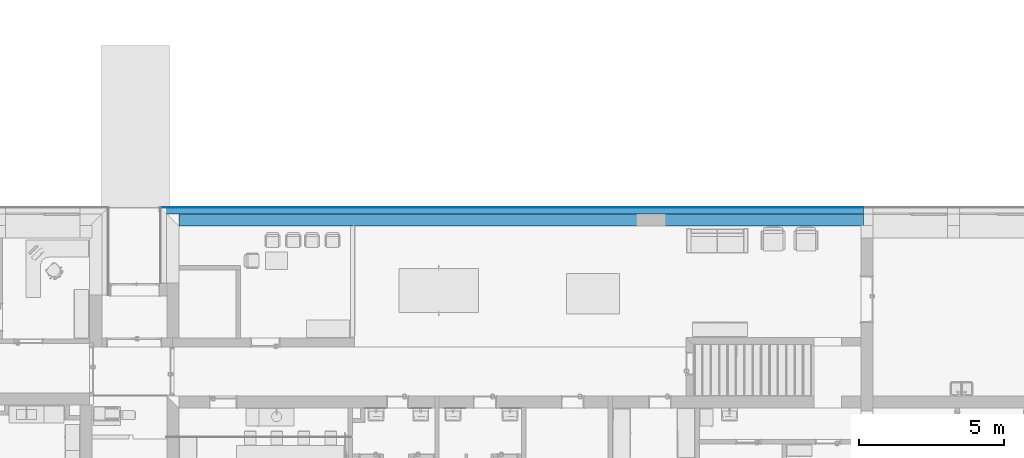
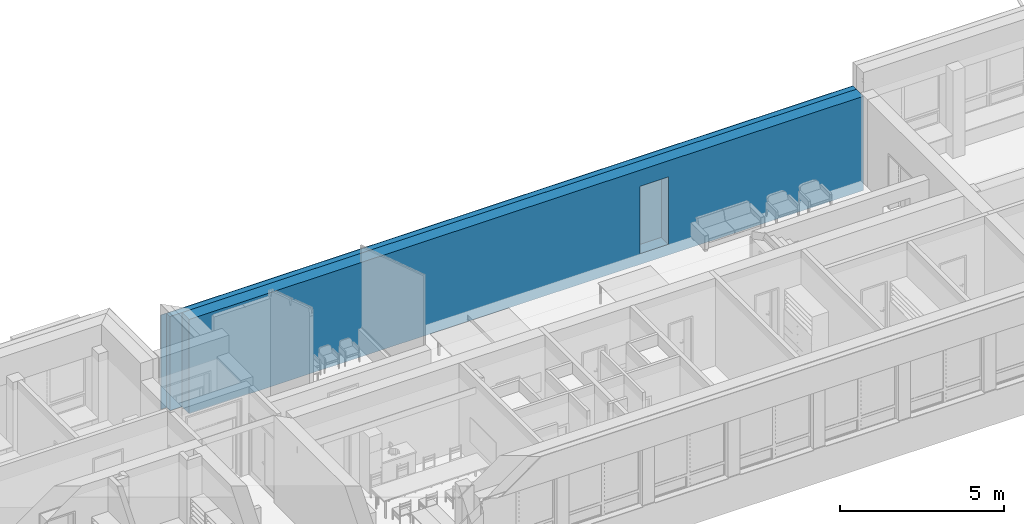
# One storey, part 97 of 194: 3 building element parts, 1 element without a shape of its own.
"""IFC2X3 building model written with IfcOpenShell, lengths in millimetres."""

import ifcopenshell
import ifcopenshell.guid

model = None  # the IFC model being written
_history = None  # IfcOwnerHistory: only IFC2X3 demands one
_inside = {}  # id of a spatial element -> (the spatial element, [elements in it])
_under = {}  # id of a project, library or spatial element -> (it, [spatial elements below it])
_declared = {}  # id of a project -> (the project, [libraries it declares])
_typed = {}  # id of a type object -> (the type object, [elements of that type])
_made_of = {}  # id of a material, layer set ... -> (it, [elements and type objects made of it])


def new_model(schema):
    """Start an empty IFC model of exactly this schema.

    Asked for "IFC4X3", IfcOpenShell would pick the latest addendum, in which some entities
    have other attributes; the version numbers below select the first issue.
    IFC2X3 requires an IfcOwnerHistory on every rooted entity: one is made here for all.
    """
    global model, _history
    if schema == "IFC4X3":
        model = ifcopenshell.file(schema_version=(4, 3, 0, 0))
    else:
        model = ifcopenshell.file(schema=schema)
    _inside.clear()
    _under.clear()
    _declared.clear()
    _typed.clear()
    _made_of.clear()
    _history = None
    if model.schema == "IFC2X3":
        org = make("IfcOrganization", Name="unknown")
        user = make(
            "IfcPersonAndOrganization",
            ThePerson=make("IfcPerson", FamilyName="unknown"),
            TheOrganization=org,
        )
        app = make(
            "IfcApplication",
            ApplicationDeveloper=org,
            Version="unknown",
            ApplicationFullName="unknown",
            ApplicationIdentifier="unknown",
        )
        _history = make(
            "IfcOwnerHistory",
            OwningUser=user,
            OwningApplication=app,
            ChangeAction="ADDED",
            CreationDate=0,
        )
    return model


def make(cls, **values):
    """One entity of the class cls with the attributes given. An attribute that is None is left unset."""
    return model.create_entity(
        cls, **{name: value for name, value in values.items() if value is not None}
    )


def entity(cls, *values):
    """Any entity or typed value of the class cls, its attributes in the order of the schema. None: left unset."""
    e = model.create_entity(cls)
    for i, value in enumerate(values):
        if value is not None:
            e[i] = value
    return e


def rooted(cls, **values):
    """An entity with a GlobalId (a new one), such as an element, a storey or a relation."""
    return make(cls, GlobalId=ifcopenshell.guid.new(), OwnerHistory=_history, **values)


def si_unit(unit_type, name, prefix=None):
    """IfcSIUnit, for example si_unit("LENGTHUNIT", "METRE", prefix="MILLI")."""
    return make("IfcSIUnit", UnitType=unit_type, Prefix=prefix, Name=name)


def converted_unit(unit_type, name, factor, base, dimensions=None, offset=None):
    """IfcConversionBasedUnit, such as the inch: factor (a typed value) times the base unit."""
    return make(
        "IfcConversionBasedUnit"
        if offset is None
        else "IfcConversionBasedUnitWithOffset",
        ConversionOffset=offset,
        Dimensions=None
        if dimensions is None
        else entity("IfcDimensionalExponents", *dimensions),
        UnitType=unit_type,
        Name=name,
        ConversionFactor=make(
            "IfcMeasureWithUnit", ValueComponent=factor, UnitComponent=base
        ),
    )


def derived_unit(unit_type, elements):
    """IfcDerivedUnit: a product of units, each with its exponent."""
    return make(
        "IfcDerivedUnit",
        Elements=[
            make("IfcDerivedUnitElement", Unit=unit, Exponent=power)
            for unit, power in elements
        ],
        UnitType=unit_type,
    )


def money_unit(currency):
    """IfcMonetaryUnit."""
    return make("IfcMonetaryUnit", Currency=currency)


def assignment(units):
    """IfcUnitAssignment: the units of a project."""
    return None if units is None else make("IfcUnitAssignment", Units=units)


def point(xyz):
    """IfcCartesianPoint."""
    return None if xyz is None else make("IfcCartesianPoint", Coordinates=xyz)


def direction(xyz):
    """IfcDirection."""
    return None if xyz is None else make("IfcDirection", DirectionRatios=xyz)


def frame(location, z_axis=None, x_axis=None):
    """IfcAxis2Placement3D, a coordinate frame: its origin and axes. An axis left out is left unset."""
    return make(
        "IfcAxis2Placement3D",
        Location=point(location),
        Axis=direction(z_axis),
        RefDirection=direction(x_axis),
    )


def origin_with_axes():
    """The frame at (0, 0, 0) with the z axis (0, 0, 1) and the x axis (1, 0, 0) written out."""
    return frame((0.0, 0.0, 0.0), z_axis=(0.0, 0.0, 1.0), x_axis=(1.0, 0.0, 0.0))


def place(relative_to, where):
    """IfcLocalPlacement: puts the frame where relative to a parent placement (None: the world)."""
    return make(
        "IfcLocalPlacement", PlacementRelTo=relative_to, RelativePlacement=where
    )


def context(
    kind, dimensions, precision=None, world=None, true_north=None, identifier=None
):
    """IfcGeometricRepresentationContext, for example the 3D "Model" context."""
    return make(
        "IfcGeometricRepresentationContext",
        ContextIdentifier=identifier,
        ContextType=kind,
        CoordinateSpaceDimension=dimensions,
        Precision=precision,
        WorldCoordinateSystem=world,
        TrueNorth=true_north,
    )


def subcontext(parent, identifier, kind, view, scale=None):
    """IfcGeometricRepresentationSubContext, for example "Body" below "Model"."""
    return make(
        "IfcGeometricRepresentationSubContext",
        ContextIdentifier=identifier,
        ContextType=kind,
        ParentContext=parent,
        TargetScale=scale,
        TargetView=view,
    )


def project(units=None, contexts=None):
    """IfcProject with its units and contexts."""
    return rooted(
        "IfcProject",
        Name="project",
        RepresentationContexts=contexts,
        UnitsInContext=assignment(units),
    )


def spatial(cls, under=None, at=None, **own):
    """A site, building, storey or space (cls), placed at a placement, below another one or the project."""
    s = rooted(cls, ObjectPlacement=at, **own)
    if under is not None:
        _under.setdefault(under.id(), (under, []))[1].append(s)
    return s


def polyline(points):
    """IfcPolyline through the points."""
    return make("IfcPolyline", Points=[point(p) for p in points])


def outline(outer, holes=None, kind="AREA"):
    """IfcArbitraryClosedProfileDef: a profile drawn as a closed curve; with holes, ...WithVoids."""
    if holes is None:
        return make("IfcArbitraryClosedProfileDef", ProfileType=kind, OuterCurve=outer)
    return make(
        "IfcArbitraryProfileDefWithVoids",
        ProfileType=kind,
        OuterCurve=outer,
        InnerCurves=holes,
    )


def extrude(swept, where, along, depth):
    """IfcExtrudedAreaSolid: the profile swept, set in the frame where, extruded along a direction by depth."""
    return make(
        "IfcExtrudedAreaSolid",
        SweptArea=swept,
        Position=where,
        ExtrudedDirection=direction(along),
        Depth=depth,
    )


def boolean(op, a, b):
    """IfcBooleanResult of two solids."""
    return make("IfcBooleanResult", Operator=op, FirstOperand=a, SecondOperand=b)


def faces_of(points, faces, orient=None, outer=None):
    """IfcFace entities. A face is a list of loops; a loop is a list of indices into points, from 0.

    orient and outer hold one flag for each loop. By default every Orientation is true, the
    first loop of a face is its IfcFaceOuterBound and the others are IfcFaceBound.
    """
    made = []
    for i, loops in enumerate(faces):
        bounds = []
        for j, loop in enumerate(loops):
            is_outer = j == 0 if outer is None else outer[i][j]
            bounds.append(
                make(
                    "IfcFaceOuterBound" if is_outer else "IfcFaceBound",
                    Bound=make("IfcPolyLoop", Polygon=[points[k] for k in loop]),
                    Orientation=True if orient is None else orient[i][j],
                )
            )
        made.append(make("IfcFace", Bounds=bounds))
    return made


def faceted_brep(points, faces, orient=None, outer=None, voids=None):
    """IfcFacetedBrep: a solid bounded by flat faces; with voids (closed shells), ...WithVoids."""
    shared = [point(p) for p in points]
    hull = make("IfcClosedShell", CfsFaces=faces_of(shared, faces, orient, outer))
    if voids is None:
        return make("IfcFacetedBrep", Outer=hull)
    return make(
        "IfcFacetedBrepWithVoids",
        Outer=hull,
        Voids=[
            make(cls, CfsFaces=faces_of(shared, fs, o, b)) for cls, fs, o, b in voids
        ],
    )


def shape(context_of_items, identifier, shape_type, items):
    """IfcShapeRepresentation: the items that make up one representation, for example the "Body"."""
    return make(
        "IfcShapeRepresentation",
        ContextOfItems=context_of_items,
        RepresentationIdentifier=identifier,
        RepresentationType=shape_type,
        Items=items,
    )


def material(Name=None, Category=None):
    """IfcMaterial."""
    return make("IfcMaterial", Name=Name, Category=Category)


def made_of(thing, what):
    """Note that an element or type object is made of a material, layer set ...; save() writes the relation."""
    if what is not None:
        _made_of.setdefault(what.id(), (what, []))[1].append(thing)
    return thing


def type_object(cls, material=None, **own):
    """A type object (cls), such as IfcWallType, which elements share."""
    return made_of(rooted(cls, **own), material)


def element(
    cls,
    number,
    at=None,
    inside=None,
    cuts=None,
    type_object=None,
    material=None,
    context=None,
    identifier="Body",
    shape_type=None,
    held_by="IfcProductDefinitionShape",
    body=None,
    shapes=None,
    **own,
):
    """One element of the class cls, such as IfcWall. Its Tag is "e" and its number.

    at: its placement. inside: the storey or other place that contains it. cuts: it is an
    opening in that element (IfcRelVoidsElement). A single representation is given by context,
    identifier, shape_type and body (its items); several are given by shapes. held_by: the class
    of the entity that holds the representations. save() writes the other relations.
    """
    e = rooted(cls, Tag="e%d" % number, ObjectPlacement=at, **own)
    if body is not None:
        shapes = [shape(context, identifier, shape_type, body)]
    if shapes is not None:
        e.Representation = make(held_by, Representations=shapes)
    if inside is not None:
        _inside.setdefault(inside.id(), (inside, []))[1].append(e)
    if cuts is not None:
        rooted(
            "IfcRelVoidsElement", RelatingBuildingElement=cuts, RelatedOpeningElement=e
        )
    if type_object is not None:
        _typed.setdefault(type_object.id(), (type_object, []))[1].append(e)
    return made_of(e, material)


def aggregate(whole, parts):
    """IfcRelAggregates: a whole, such as a stair, and the parts it consists of."""
    return rooted("IfcRelAggregates", RelatingObject=whole, RelatedObjects=parts)


def save(model, path):
    """Write the relations noted so far, then the file.

    IfcRelAggregates (storeys below a building ...), IfcRelContainedInSpatialStructure (elements
    in a storey), IfcRelDefinesByType, IfcRelAssociatesMaterial and IfcRelDeclares: one each for
    every whole, place, type object, material and project.
    """
    for whole, parts in _under.values():
        aggregate(whole, parts)
    for where, things in _inside.values():
        rooted(
            "IfcRelContainedInSpatialStructure",
            RelatedElements=things,
            RelatingStructure=where,
        )
    for kind, things in _typed.values():
        rooted("IfcRelDefinesByType", RelatedObjects=things, RelatingType=kind)
    for what, things in _made_of.values():
        rooted("IfcRelAssociatesMaterial", RelatedObjects=things, RelatingMaterial=what)
    for by, libraries in _declared.values():
        rooted("IfcRelDeclares", RelatingContext=by, RelatedDefinitions=libraries)
    model.write(path)


model = new_model("IFC2X3")

# Units and contexts
model_context = context("Model", 3, precision=1e-05, world=origin_with_axes(), true_north=direction((0.0, 1.0)))
body_context = subcontext(model_context, "Body", "Model", "MODEL_VIEW")
ifc_project = project(units=[si_unit("LENGTHUNIT", "METRE", prefix="MILLI"), si_unit("AREAUNIT", "SQUARE_METRE"), si_unit("VOLUMEUNIT", "CUBIC_METRE"), converted_unit("PLANEANGLEUNIT", "DEGREE", entity("IfcPlaneAngleMeasure", 0.0174532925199), si_unit("PLANEANGLEUNIT", "RADIAN"), dimensions=[0, 0, 0, 0, 0, 0, 0]), si_unit("SOLIDANGLEUNIT", "STERADIAN"), money_unit("EUR"), converted_unit("TIMEUNIT", "Year", entity("IfcTimeMeasure", 31556926.0), si_unit("TIMEUNIT", "SECOND"), dimensions=[0, 0, 1, 0, 0, 0, 0]), si_unit("MASSUNIT", "GRAM", prefix="KILO"), si_unit("THERMODYNAMICTEMPERATUREUNIT", "DEGREE_CELSIUS"), si_unit("LUMINOUSINTENSITYUNIT", "LUMEN"), si_unit("ENERGYUNIT", "JOULE", prefix="MEGA"), derived_unit("THERMALCONDUCTANCEUNIT", [(si_unit("POWERUNIT", "WATT"), 1), (si_unit("LENGTHUNIT", "METRE"), -1), (si_unit("THERMODYNAMICTEMPERATUREUNIT", "KELVIN"), -1)]), derived_unit("SPECIFICHEATCAPACITYUNIT", [(si_unit("ENERGYUNIT", "JOULE"), 1), (si_unit("MASSUNIT", "GRAM", prefix="KILO"), -1), (si_unit("THERMODYNAMICTEMPERATUREUNIT", "KELVIN"), -1)]), derived_unit("MASSDENSITYUNIT", [(si_unit("MASSUNIT", "GRAM", prefix="KILO"), 1), (si_unit("VOLUMEUNIT", "CUBIC_METRE"), -1)])], contexts=[model_context])

# Site, building, storey
site_placement = place(None, origin_with_axes())
site = spatial("IfcSite", under=ifc_project, at=site_placement, Name="Site", CompositionType="ELEMENT")
building_placement = place(site_placement, origin_with_axes())
building = spatial("IfcBuilding", under=site, at=building_placement, Name="Building", CompositionType="ELEMENT")
storey_placement = place(building_placement, frame((0.0, 0.0, 3000.0), z_axis=(0.0, 0.0, 1.0), x_axis=(1.0, 0.0, 0.0)))
storey = spatial("IfcBuildingStorey", under=building, at=storey_placement, Name="2 KORRUS", CompositionType="ELEMENT", Elevation=3000.0)

# Wall, building element parts
wall_type = type_object("IfcWallType", Name="VS4", PredefinedType="NOTDEFINED")
wall_placement = place(storey_placement, frame((63723.0206804, 47302.325893, -400.0), z_axis=(0.0, 0.0, 1.0), x_axis=(1.0, 0.0, 0.0)))
wall = element("IfcWall", 1, at=wall_placement, inside=storey, type_object=wall_type, Name="VS4")
ifc_material_1 = material(Name="Tellis - Konstuktsioon")
building_element_part_1_placement = place(wall_placement, origin_with_axes())
building_element_part_1 = element("IfcBuildingElementPart", 2, at=building_element_part_1_placement, material=ifc_material_1, Name="Tellis - Konstuktsioon", context=body_context, shape_type="CSG", body=[
    boolean("DIFFERENCE", boolean("DIFFERENCE", boolean("DIFFERENCE", boolean("DIFFERENCE", extrude(outline(polyline([(-220.336274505, -430.0), (24106.1463879, -430.0), (24106.1463879, 0.0), (-220.336274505, 0.0), (-220.336274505, -430.0)])), origin_with_axes(), (0.0, 0.0, 1.0), 3500.0), faceted_brep([(430.657263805, -430.0, 0.0), (430.657263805, -430.0, 3500.0), (-220.336274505, -430.0, 3500.0), (-220.336274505, -430.0, 0.0), (430.000501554, 0.0, 3500.0), (430.000501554, 0.0, 0.0), (-220.336274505, 0.0, 3500.0), (-220.336274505, 0.0, 0.0)], [[[0, 1, 2, 3]], [[4, 1, 0, 5]], [[1, 4, 6, 2]], [[6, 7, 3, 2]], [[5, 0, 3, 7]], [[4, 5, 7, 6]]])), faceted_brep([(16255.3605061, -430.0, 400.0), (17255.3605061, -430.0, 400.0), (17255.3605061, -430.0, 2900.0), (16255.3605061, -430.0, 2900.0), (16255.3605061, 0.0, 400.0), (17255.3605061, 0.0, 400.0), (17255.3605061, 0.0, 2900.0), (16255.3605061, 0.0, 2900.0)], [[[0, 1, 2, 3]], [[4, 5, 1, 0]], [[5, 6, 2, 1]], [[6, 7, 3, 2]], [[7, 4, 0, 3]], [[4, 7, 6, 5]]])), faceted_brep([(0.0, 0.0, 0.0), (0.0, 0.0, 3500.0), (-220.336274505, 0.0, 3500.0), (-220.336274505, 0.0, 0.0), (-0.305470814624, 200.0, 3500.0), (-0.305470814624, 200.0, 0.0), (-220.336274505, 200.0, 3500.0), (-220.336274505, 200.0, 0.0)], [[[0, 1, 2, 3]], [[4, 1, 0, 5]], [[1, 4, 6, 2]], [[6, 7, 3, 2]], [[5, 0, 3, 7]], [[4, 5, 7, 6]]])), faceted_brep([(-200.305704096, 200.0, 0.0), (-200.305704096, 200.0, 3500.0), (-220.336274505, 200.0, 3500.0), (-220.336274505, 200.0, 0.0), (-200.336251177, 220.0, 3500.0), (-200.336251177, 220.0, 0.0), (-220.336274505, 220.0, 3500.0), (-220.336274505, 220.0, 0.0)], [[[0, 1, 2, 3]], [[4, 1, 0, 5]], [[1, 4, 6, 2]], [[6, 7, 3, 2]], [[5, 0, 3, 7]], [[4, 5, 7, 6]]])),
])
ifc_material_2 = material(Name="Soojustus - Plastik Kõva")
building_element_part_2_placement = place(wall_placement, origin_with_axes())
building_element_part_2 = element("IfcBuildingElementPart", 3, at=building_element_part_2_placement, material=ifc_material_2, Name="Soojustus - Plastik Kõva", context=body_context, shape_type="CSG", body=[
    boolean("DIFFERENCE", boolean("DIFFERENCE", boolean("DIFFERENCE", boolean("DIFFERENCE", extrude(outline(polyline([(-220.336274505, 0.0), (24106.1463879, 0.0), (24106.1463879, 200.0), (-220.336274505, 200.0), (-220.336274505, 0.0)])), origin_with_axes(), (0.0, 0.0, 1.0), 3500.0), faceted_brep([(430.657263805, -430.0, 0.0), (430.657263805, -430.0, 3500.0), (-220.336274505, -430.0, 3500.0), (-220.336274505, -430.0, 0.0), (430.000501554, 0.0, 3500.0), (430.000501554, 0.0, 0.0), (-220.336274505, 0.0, 3500.0), (-220.336274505, 0.0, 0.0)], [[[0, 1, 2, 3]], [[4, 1, 0, 5]], [[1, 4, 6, 2]], [[6, 7, 3, 2]], [[5, 0, 3, 7]], [[4, 5, 7, 6]]])), faceted_brep([(16255.3605061, -430.0, 400.0), (17255.3605061, -430.0, 400.0), (17255.3605061, -430.0, 2900.0), (16255.3605061, -430.0, 2900.0), (16255.3605061, 0.0, 400.0), (17255.3605061, 0.0, 400.0), (17255.3605061, 0.0, 2900.0), (16255.3605061, 0.0, 2900.0)], [[[0, 1, 2, 3]], [[4, 5, 1, 0]], [[5, 6, 2, 1]], [[6, 7, 3, 2]], [[7, 4, 0, 3]], [[4, 7, 6, 5]]])), faceted_brep([(0.0, 0.0, 0.0), (0.0, 0.0, 3500.0), (-220.336274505, 0.0, 3500.0), (-220.336274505, 0.0, 0.0), (-0.305470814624, 200.0, 3500.0), (-0.305470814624, 200.0, 0.0), (-220.336274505, 200.0, 3500.0), (-220.336274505, 200.0, 0.0)], [[[0, 1, 2, 3]], [[4, 1, 0, 5]], [[1, 4, 6, 2]], [[6, 7, 3, 2]], [[5, 0, 3, 7]], [[4, 5, 7, 6]]])), faceted_brep([(-200.305704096, 200.0, 0.0), (-200.305704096, 200.0, 3500.0), (-220.336274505, 200.0, 3500.0), (-220.336274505, 200.0, 0.0), (-200.336251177, 220.0, 3500.0), (-200.336251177, 220.0, 0.0), (-220.336274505, 220.0, 3500.0), (-220.336274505, 220.0, 0.0)], [[[0, 1, 2, 3]], [[4, 1, 0, 5]], [[1, 4, 6, 2]], [[6, 7, 3, 2]], [[5, 0, 3, 7]], [[4, 5, 7, 6]]])),
])
ifc_material_3 = material(Name="Tellis - Viimistlus")
building_element_part_3_placement = place(wall_placement, origin_with_axes())
building_element_part_3 = element("IfcBuildingElementPart", 4, at=building_element_part_3_placement, material=ifc_material_3, Name="Tellis - Viimistlus", context=body_context, shape_type="CSG", body=[
    boolean("DIFFERENCE", boolean("DIFFERENCE", boolean("DIFFERENCE", boolean("DIFFERENCE", extrude(outline(polyline([(-220.336274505, 200.0), (24106.1463879, 200.0), (24106.1463879, 220.0), (-220.336274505, 220.0), (-220.336274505, 200.0)])), origin_with_axes(), (0.0, 0.0, 1.0), 3500.0), faceted_brep([(430.657263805, -430.0, 0.0), (430.657263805, -430.0, 3500.0), (-220.336274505, -430.0, 3500.0), (-220.336274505, -430.0, 0.0), (430.000501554, 0.0, 3500.0), (430.000501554, 0.0, 0.0), (-220.336274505, 0.0, 3500.0), (-220.336274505, 0.0, 0.0)], [[[0, 1, 2, 3]], [[4, 1, 0, 5]], [[1, 4, 6, 2]], [[6, 7, 3, 2]], [[5, 0, 3, 7]], [[4, 5, 7, 6]]])), faceted_brep([(16255.3605061, -430.0, 400.0), (17255.3605061, -430.0, 400.0), (17255.3605061, -430.0, 2900.0), (16255.3605061, -430.0, 2900.0), (16255.3605061, 0.0, 400.0), (17255.3605061, 0.0, 400.0), (17255.3605061, 0.0, 2900.0), (16255.3605061, 0.0, 2900.0)], [[[0, 1, 2, 3]], [[4, 5, 1, 0]], [[5, 6, 2, 1]], [[6, 7, 3, 2]], [[7, 4, 0, 3]], [[4, 7, 6, 5]]])), faceted_brep([(0.0, 0.0, 0.0), (0.0, 0.0, 3500.0), (-220.336274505, 0.0, 3500.0), (-220.336274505, 0.0, 0.0), (-0.305470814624, 200.0, 3500.0), (-0.305470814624, 200.0, 0.0), (-220.336274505, 200.0, 3500.0), (-220.336274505, 200.0, 0.0)], [[[0, 1, 2, 3]], [[4, 1, 0, 5]], [[1, 4, 6, 2]], [[6, 7, 3, 2]], [[5, 0, 3, 7]], [[4, 5, 7, 6]]])), faceted_brep([(-200.305704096, 200.0, 0.0), (-200.305704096, 200.0, 3500.0), (-220.336274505, 200.0, 3500.0), (-220.336274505, 200.0, 0.0), (-200.336251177, 220.0, 3500.0), (-200.336251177, 220.0, 0.0), (-220.336274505, 220.0, 3500.0), (-220.336274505, 220.0, 0.0)], [[[0, 1, 2, 3]], [[4, 1, 0, 5]], [[1, 4, 6, 2]], [[6, 7, 3, 2]], [[5, 0, 3, 7]], [[4, 5, 7, 6]]])),
])
aggregate(wall, [building_element_part_1, building_element_part_2, building_element_part_3])

save(model, "model.ifc")
